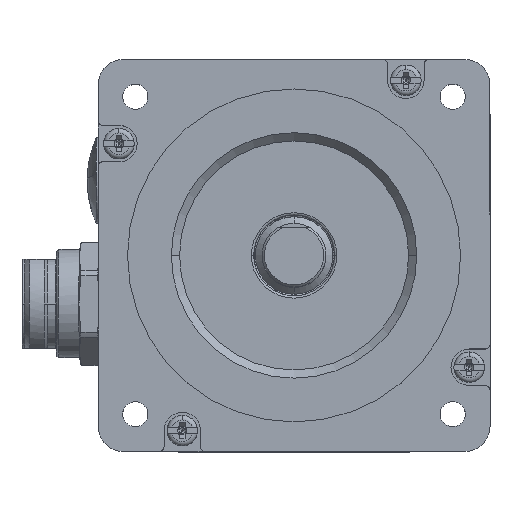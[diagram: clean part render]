
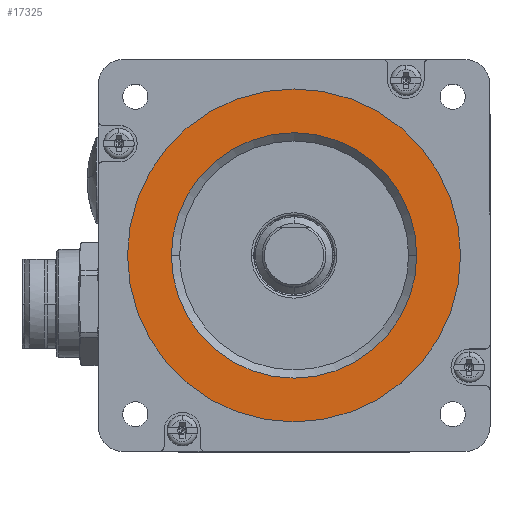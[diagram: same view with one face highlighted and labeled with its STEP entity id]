
A CAD part, top view. The second image highlights one B-rep face of the part: STEP entity #17325.
In plain terms, the highlighted planar face has unit normal (0, 0, 1).
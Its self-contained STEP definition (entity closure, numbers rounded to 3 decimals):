
#286 = PLANE ( 'NONE',  #25192 ) ;
#6031 = DIRECTION ( 'NONE',  ( 0., 0., 1. ) ) ;
#7414 = EDGE_LOOP ( 'NONE', ( #71154, #11203 ) ) ;
#9401 = ORIENTED_EDGE ( 'NONE', *, *, #75606, .T. ) ;
#10103 = VERTEX_POINT ( 'NONE', #70837 ) ;
#11203 = ORIENTED_EDGE ( 'NONE', *, *, #71684, .T. ) ;
#13262 = DIRECTION ( 'NONE',  ( 1., 0., 0. ) ) ;
#14462 = DIRECTION ( 'NONE',  ( 0., 0., 1. ) ) ;
#16228 = CIRCLE ( 'NONE', #32927, 36.5 ) ;
#17325 = ADVANCED_FACE ( 'NONE', ( #68172, #25086 ), #286, .T. ) ;
#21737 = AXIS2_PLACEMENT_3D ( 'NONE', #22536, #47214, #78707 ) ;
#22340 = CIRCLE ( 'NONE', #79497, 26.9 ) ;
#22536 = CARTESIAN_POINT ( 'NONE',  ( 4.074, -46.313, 207.453 ) ) ;
#22823 = VERTEX_POINT ( 'NONE', #60025 ) ;
#23893 = DIRECTION ( 'NONE',  ( 1., 0., 0. ) ) ;
#25086 = FACE_OUTER_BOUND ( 'NONE', #54897, .T. ) ;
#25192 = AXIS2_PLACEMENT_3D ( 'NONE', #73523, #6031, #23893 ) ;
#26649 = AXIS2_PLACEMENT_3D ( 'NONE', #56957, #76203, #46748 ) ;
#28494 = ORIENTED_EDGE ( 'NONE', *, *, #77953, .T. ) ;
#32927 = AXIS2_PLACEMENT_3D ( 'NONE', #43673, #14462, #13262 ) ;
#33720 = EDGE_CURVE ( 'NONE', #22823, #72341, #46052, .T. ) ;
#37167 = CARTESIAN_POINT ( 'NONE',  ( 4.074, -46.313, 207.453 ) ) ;
#37271 = VERTEX_POINT ( 'NONE', #51489 ) ;
#42458 = DIRECTION ( 'NONE',  ( 0., 0., -1. ) ) ;
#43245 = DIRECTION ( 'NONE',  ( 1., 0., 0. ) ) ;
#43673 = CARTESIAN_POINT ( 'NONE',  ( 4.074, -46.313, 207.453 ) ) ;
#46052 = CIRCLE ( 'NONE', #26649, 26.9 ) ;
#46748 = DIRECTION ( 'NONE',  ( 1., 0., 0. ) ) ;
#47214 = DIRECTION ( 'NONE',  ( 0., 0., 1. ) ) ;
#49373 = CARTESIAN_POINT ( 'NONE',  ( -22.826, -46.313, 207.453 ) ) ;
#51489 = CARTESIAN_POINT ( 'NONE',  ( 40.574, -46.313, 207.453 ) ) ;
#52796 = CIRCLE ( 'NONE', #21737, 36.5 ) ;
#54897 = EDGE_LOOP ( 'NONE', ( #28494, #9401 ) ) ;
#56957 = CARTESIAN_POINT ( 'NONE',  ( 4.074, -46.313, 207.453 ) ) ;
#60025 = CARTESIAN_POINT ( 'NONE',  ( 30.974, -46.313, 207.453 ) ) ;
#68172 = FACE_BOUND ( 'NONE', #7414, .T. ) ;
#70837 = CARTESIAN_POINT ( 'NONE',  ( -32.426, -46.313, 207.453 ) ) ;
#71154 = ORIENTED_EDGE ( 'NONE', *, *, #33720, .T. ) ;
#71684 = EDGE_CURVE ( 'NONE', #72341, #22823, #22340, .T. ) ;
#72341 = VERTEX_POINT ( 'NONE', #49373 ) ;
#73523 = CARTESIAN_POINT ( 'NONE',  ( -33.376, -83.763, 207.453 ) ) ;
#75606 = EDGE_CURVE ( 'NONE', #10103, #37271, #52796, .T. ) ;
#76203 = DIRECTION ( 'NONE',  ( 0., 0., -1. ) ) ;
#77953 = EDGE_CURVE ( 'NONE', #37271, #10103, #16228, .T. ) ;
#78707 = DIRECTION ( 'NONE',  ( 1., 0., 0. ) ) ;
#79497 = AXIS2_PLACEMENT_3D ( 'NONE', #37167, #42458, #43245 ) ;
